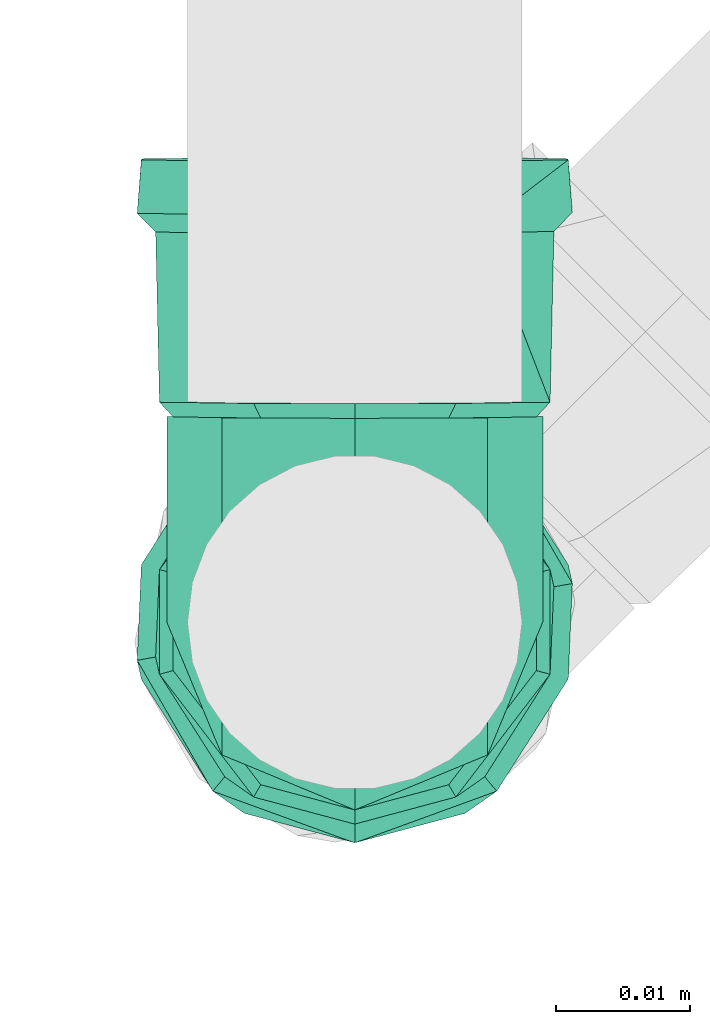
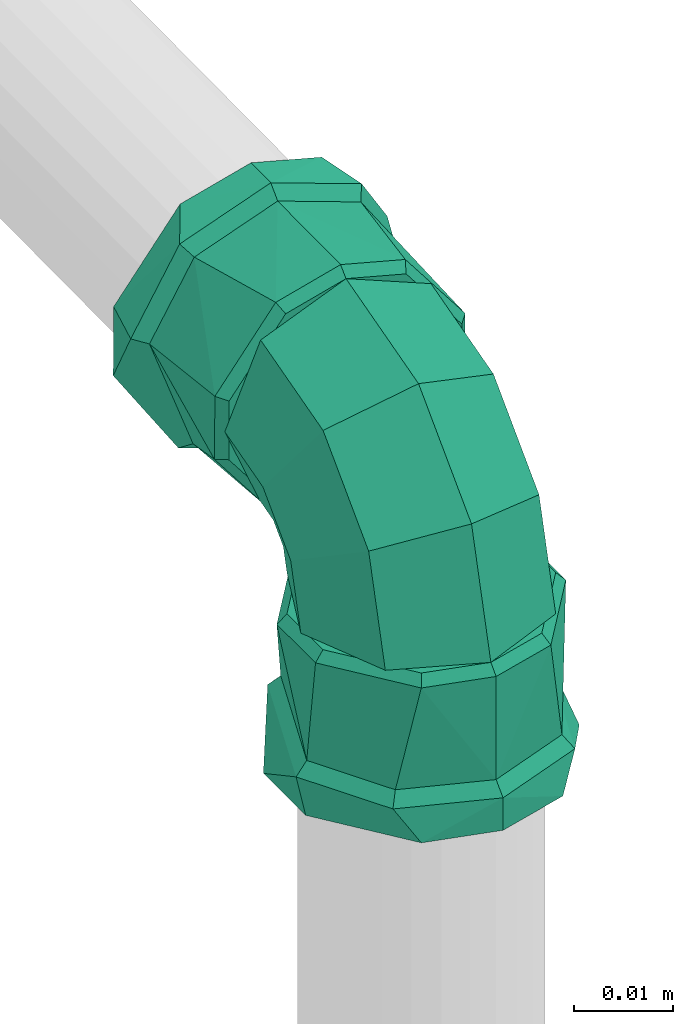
# One storey, part 357 of 589: 1 flow fitting.
"""IFC2X3 building model written with IfcOpenShell, lengths in millimetres."""

from ifc_helpers import new_model, entity, si_unit, converted_unit, derived_unit, direction, frame, origin, place, context, subcontext, project, spatial, faceted_brep, source, transform, mapped, material, type_object, type_shapes, element, save


model = new_model("IFC2X3")

# Units and contexts
model_context = context("Model", 3, precision=0.01, world=origin(), true_north=direction((6.123031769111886e-17, 1.0)))
body_context = subcontext(model_context, "Body", "Model", "MODEL_VIEW")
ifc_project = project(units=[si_unit("LENGTHUNIT", "METRE", prefix="MILLI"), si_unit("AREAUNIT", "SQUARE_METRE"), si_unit("VOLUMEUNIT", "CUBIC_METRE"), converted_unit("PLANEANGLEUNIT", "DEGREE", entity("IfcRatioMeasure", 0.017453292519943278), si_unit("PLANEANGLEUNIT", "RADIAN"), dimensions=[0, 0, 0, 0, 0, 0, 0]), si_unit("MASSUNIT", "GRAM", prefix="KILO"), derived_unit("MASSDENSITYUNIT", [(si_unit("MASSUNIT", "GRAM", prefix="KILO"), 1), (si_unit("LENGTHUNIT", "METRE"), -3)]), derived_unit("IONCONCENTRATIONUNIT", [(si_unit("MASSUNIT", "GRAM", prefix="KILO"), 1), (si_unit("LENGTHUNIT", "METRE"), -3)]), derived_unit("MOMENTOFINERTIAUNIT", [(si_unit("LENGTHUNIT", "METRE"), 4)]), si_unit("TIMEUNIT", "SECOND"), si_unit("FREQUENCYUNIT", "HERTZ"), si_unit("THERMODYNAMICTEMPERATUREUNIT", "DEGREE_CELSIUS"), derived_unit("THERMALTRANSMITTANCEUNIT", [(si_unit("MASSUNIT", "GRAM", prefix="KILO"), 1), (si_unit("THERMODYNAMICTEMPERATUREUNIT", "KELVIN"), -1), (si_unit("TIMEUNIT", "SECOND"), -3)]), derived_unit("THERMALCONDUCTANCEUNIT", [(si_unit("MASSUNIT", "GRAM", prefix="KILO"), 1), (si_unit("THERMODYNAMICTEMPERATUREUNIT", "KELVIN"), -1), (si_unit("TIMEUNIT", "SECOND"), -3), (si_unit("LENGTHUNIT", "METRE"), 1)]), derived_unit("VOLUMETRICFLOWRATEUNIT", [(si_unit("LENGTHUNIT", "METRE"), 3), (si_unit("TIMEUNIT", "SECOND"), -1)]), derived_unit("MASSFLOWRATEUNIT", [(si_unit("MASSUNIT", "GRAM", prefix="KILO"), 1), (si_unit("TIMEUNIT", "SECOND"), -1)]), derived_unit("ROTATIONALFREQUENCYUNIT", [(si_unit("TIMEUNIT", "SECOND"), -1)]), si_unit("ELECTRICCURRENTUNIT", "AMPERE"), si_unit("ELECTRICVOLTAGEUNIT", "VOLT"), si_unit("POWERUNIT", "WATT"), si_unit("FORCEUNIT", "NEWTON", prefix="KILO"), si_unit("ILLUMINANCEUNIT", "LUX"), si_unit("LUMINOUSFLUXUNIT", "LUMEN"), si_unit("LUMINOUSINTENSITYUNIT", "CANDELA"), derived_unit("USERDEFINED", [(si_unit("MASSUNIT", "GRAM", prefix="KILO"), -1), (si_unit("LENGTHUNIT", "METRE"), -2), (si_unit("TIMEUNIT", "SECOND"), 3), (si_unit("LUMINOUSFLUXUNIT", "LUMEN"), 1)]), derived_unit("USERDEFINED", [(si_unit("MASSUNIT", "GRAM", prefix="KILO"), 1), (si_unit("TIMEUNIT", "SECOND"), -3), (si_unit("LENGTHUNIT", "METRE"), 3), (si_unit("ELECTRICCURRENTUNIT", "AMPERE"), -2)]), derived_unit("SOUNDPOWERUNIT", [(si_unit("MASSUNIT", "GRAM", prefix="KILO"), 1), (si_unit("TIMEUNIT", "SECOND"), -3), (si_unit("LENGTHUNIT", "METRE"), 2)]), derived_unit("SOUNDPRESSUREUNIT", [(si_unit("MASSUNIT", "GRAM", prefix="KILO"), 1), (si_unit("LENGTHUNIT", "METRE"), -1), (si_unit("TIMEUNIT", "SECOND"), -2)]), derived_unit("LINEARVELOCITYUNIT", [(si_unit("LENGTHUNIT", "METRE"), 1), (si_unit("TIMEUNIT", "SECOND"), -1)]), si_unit("PRESSUREUNIT", "PASCAL"), derived_unit("USERDEFINED", [(si_unit("MASSUNIT", "GRAM", prefix="KILO"), 1), (si_unit("LENGTHUNIT", "METRE"), -2), (si_unit("TIMEUNIT", "SECOND"), -2)]), derived_unit("LINEARFORCEUNIT", [(si_unit("MASSUNIT", "GRAM", prefix="KILO"), 1), (si_unit("TIMEUNIT", "SECOND"), -2)]), derived_unit("PLANARFORCEUNIT", [(si_unit("MASSUNIT", "GRAM", prefix="KILO"), 1), (si_unit("LENGTHUNIT", "METRE"), -1), (si_unit("TIMEUNIT", "SECOND"), -2)]), derived_unit("SPECIFICHEATCAPACITYUNIT", [(si_unit("THERMODYNAMICTEMPERATUREUNIT", "KELVIN"), -1), (si_unit("LENGTHUNIT", "METRE"), 2), (si_unit("TIMEUNIT", "SECOND"), -2)]), derived_unit("HEATINGVALUEUNIT", [(si_unit("LENGTHUNIT", "METRE"), 2), (si_unit("TIMEUNIT", "SECOND"), -2)]), derived_unit("VAPORPERMEABILITYUNIT", [(si_unit("LENGTHUNIT", "METRE"), -1), (si_unit("TIMEUNIT", "SECOND"), 1)]), derived_unit("DYNAMICVISCOSITYUNIT", [(si_unit("MASSUNIT", "GRAM", prefix="KILO"), 1), (si_unit("TIMEUNIT", "SECOND"), -1), (si_unit("LENGTHUNIT", "METRE"), -1)]), derived_unit("THERMALEXPANSIONCOEFFICIENTUNIT", [(si_unit("THERMODYNAMICTEMPERATUREUNIT", "KELVIN"), -1)]), derived_unit("MODULUSOFELASTICITYUNIT", [(si_unit("MASSUNIT", "GRAM", prefix="KILO"), 1), (si_unit("LENGTHUNIT", "METRE"), -1), (si_unit("TIMEUNIT", "SECOND"), -2)]), derived_unit("ISOTHERMALMOISTURECAPACITYUNIT", [(si_unit("LENGTHUNIT", "METRE"), 3), (si_unit("MASSUNIT", "GRAM", prefix="KILO"), -1)]), derived_unit("MOISTUREDIFFUSIVITYUNIT", [(si_unit("TIMEUNIT", "SECOND"), -1), (si_unit("LENGTHUNIT", "METRE"), 2)])], contexts=[model_context])

# Site, building, storey
site_placement = place(None, origin())
site = spatial("IfcSite", under=ifc_project, at=site_placement, Name="Default", CompositionType="ELEMENT")
building_placement = place(site_placement, origin())
building = spatial("IfcBuilding", under=site, at=building_placement, CompositionType="ELEMENT")
storey_placement = place(building_placement, frame((0.0, 0.0, 100.0)))
storey = spatial("IfcBuildingStorey", under=building, at=storey_placement, Name="TÉRREO", CompositionType="ELEMENT", Elevation=100.0)

# Flow fitting
ifc_material = material(Name="PVC Marrom")
pipe_fitting_type = type_object("IfcPipeFittingType", Name="PVC Marrom Soldável_Joelho 45°_90°_Rodrigo MEP:Joelho", PredefinedType="NOTDEFINED", material=ifc_material)
shared_shape = source(origin(), body_context, "Body", "Brep", [
    faceted_brep([(4.072421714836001, 16.405873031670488, 14.585479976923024), (13.240779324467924, 16.314189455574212, 7.549999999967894), (15.263694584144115, 16.29396030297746, 0.0), (13.240779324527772, 16.314189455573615, -7.55000000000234), (4.07242171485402, 16.405873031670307, -14.585479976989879), (-3.7435226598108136, 16.48403247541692, -14.585479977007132), (-12.91188026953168, 16.575716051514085, -7.550000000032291), (-14.934795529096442, 16.595945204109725, 0.0), (-12.911880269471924, 16.57571605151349, 7.549999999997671), (-3.7435226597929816, 16.48403247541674, 14.585479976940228), (-3.4801876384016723, 15.38134412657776, 13.561598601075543), (-12.004938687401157, 15.466591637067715, 7.0199999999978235), (-13.885847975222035, 15.485400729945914, 0.0), (-12.004938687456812, 15.466591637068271, -7.020000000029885), (-3.480187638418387, 15.381344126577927, -13.561598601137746), (3.7870877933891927, 15.308671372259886, -13.561598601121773), (12.311838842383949, 15.223423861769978, -7.02000000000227), (14.192748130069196, 15.204614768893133, 0.0), (12.31183884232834, 15.223423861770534, 7.019999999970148), (3.7870877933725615, 15.308671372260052, 13.561598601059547)], [[[0, 1, 2, 3, 4, 5, 6, 7, 8, 9]], [[10, 11, 12, 13, 14, 15, 16, 17, 18, 19]], [[3, 2, 17, 16]], [[4, 3, 16, 15]], [[15, 14, 5, 4]], [[6, 5, 14, 13]], [[7, 6, 13, 12]], [[8, 7, 12, 11]], [[9, 8, 11, 10]], [[10, 19, 0, 9]], [[1, 0, 19, 18]], [[2, 1, 18, 17]]]),
    faceted_brep([(-16.445774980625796, 3.908167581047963, 14.585479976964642), (-16.445774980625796, 13.076983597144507, 7.549999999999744), (-16.445774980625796, 15.100000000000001, 0.0), (-16.445774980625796, 13.076983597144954, -7.54999999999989), (-16.445774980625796, 3.9081675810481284, -14.58547997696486), (-16.445774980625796, -3.9081675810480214, -14.585479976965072), (-16.445774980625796, -13.0769835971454, -7.550000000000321), (-16.445774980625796, -15.099999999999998, 0.0), (-16.445774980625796, -13.076983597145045, 7.550000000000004), (-16.445774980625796, -3.908167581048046, 14.585479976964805), (-15.345774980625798, 12.158996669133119, 7.019999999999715), (-15.345774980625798, 3.6338193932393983, 13.561598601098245), (-15.345774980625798, -3.633819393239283, 13.56159860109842), (-15.345774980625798, -12.15899666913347, 7.020000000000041), (-15.345774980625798, -14.040000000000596, 0.0), (-15.345774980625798, -12.158996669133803, -7.020000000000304), (-15.345774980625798, -3.63381939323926, -13.561598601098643), (-15.345774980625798, 3.6338193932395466, -13.56159860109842), (-15.345774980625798, 12.158996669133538, -7.019999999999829), (-15.345774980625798, 14.03999999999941, 0.0)], [[[0, 1, 2, 3, 4, 5, 6, 7, 8, 9]], [[10, 11, 12, 13, 14, 15, 16, 17, 18, 19]], [[3, 2, 19, 18]], [[4, 3, 18, 17]], [[17, 16, 5, 4]], [[6, 5, 16, 15]], [[7, 6, 15, 14]], [[8, 7, 14, 13]], [[9, 8, 13, 12]], [[12, 11, 0, 9]], [[1, 0, 11, 10]], [[2, 1, 10, 19]]]),
    faceted_brep([(-34.545774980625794, -4.2705142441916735, -15.937776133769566), (-34.545774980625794, -6.250000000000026, -10.825317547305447), (-34.545774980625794, 0.0, -12.5), (-34.545774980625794, -14.289419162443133, -8.25000000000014), (-34.545774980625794, 4.270514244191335, -15.937776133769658), (-34.545774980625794, -12.074072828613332, -3.23523806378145), (-34.545774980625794, -16.499999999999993, 0.0), (-34.545774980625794, -12.074072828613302, 3.2352380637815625), (-34.545774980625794, -14.289419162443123, 8.249999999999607), (-34.545774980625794, -6.249999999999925, 10.825317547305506), (-34.545774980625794, -4.27051424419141, 15.937776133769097), (-34.545774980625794, 0.0, 12.5), (-34.545774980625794, 4.270514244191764, 15.937776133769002), (-34.545774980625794, 6.249999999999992, 10.825317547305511), (-34.545774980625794, 14.28941916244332, 8.249999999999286), (-34.545774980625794, 12.074072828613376, 3.2352380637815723), (-34.545774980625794, 16.500000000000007, 0.0), (-34.545774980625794, 12.074072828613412, -3.235238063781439), (-34.545774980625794, 14.289419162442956, -8.250000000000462), (-34.545774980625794, 6.250000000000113, -10.82531754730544), (-30.545774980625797, 16.5, 0.0), (-30.545774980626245, 12.639142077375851, 10.606700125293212), (-30.545774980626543, 2.8633833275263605, 16.249647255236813), (-30.545774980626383, -12.64180232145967, 10.603529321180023), (-30.545774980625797, -16.499999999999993, 0.0), (-30.545774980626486, -4.889209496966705, 13.426588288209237), (-30.545774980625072, -12.641802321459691, -10.603529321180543), (-30.54577498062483, -2.8674593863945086, -16.24892847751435), (-30.545774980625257, 12.639142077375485, -10.606700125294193), (-30.545774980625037, 4.885841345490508, -13.427814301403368), (-29.145774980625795, -15.099999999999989, 0.0), (-29.145774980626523, -11.56916454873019, 9.703835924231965), (-29.14577498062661, -4.474367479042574, 12.287362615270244), (-29.145774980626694, 2.6204295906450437, 14.870889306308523), (-29.14577498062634, 11.566730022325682, 9.706737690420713), (-29.145774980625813, 15.099999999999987, 0.0), (-29.14577498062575, 11.566730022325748, -9.706737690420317), (-29.145774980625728, 4.4712851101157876, -12.28848460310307), (-29.145774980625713, -2.6241598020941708, -14.870231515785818), (-29.145774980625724, -11.569164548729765, -9.703835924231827), (-16.445774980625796, 0.0, -12.5), (-16.445774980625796, -6.250000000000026, -10.825317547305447), (-16.445774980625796, -3.908167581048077, -14.585479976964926), (-16.445774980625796, 3.9081675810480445, -14.585479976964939), (-16.445774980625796, 6.250000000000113, -10.82531754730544), (-16.445774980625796, -13.076983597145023, -7.549999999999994), (-16.445774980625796, -12.074072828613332, -3.23523806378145), (-16.445774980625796, -15.099999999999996, 0.0), (-16.445774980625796, -12.074072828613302, 3.2352380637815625), (-16.445774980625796, -13.076983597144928, 7.550000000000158), (-16.445774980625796, -6.249999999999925, 10.825317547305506), (-16.445774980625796, -3.9081675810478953, 14.585479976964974), (-16.445774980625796, 0.0, 12.5), (-16.445774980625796, 3.9081675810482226, 14.58547997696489), (-16.445774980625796, 6.249999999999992, 10.825317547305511), (-16.445774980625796, 13.076983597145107, 7.549999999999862), (-16.445774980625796, 12.074072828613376, 3.2352380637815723), (-16.445774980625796, 15.100000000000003, 0.0), (-16.445774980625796, 12.074072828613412, -3.235238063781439), (-16.445774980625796, 13.076983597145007, -7.550000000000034)], [[[0, 1, 2]], [[1, 0, 3]], [[2, 4, 0]], [[3, 5, 1]], [[3, 6, 5]], [[5, 6, 7]], [[8, 7, 6]], [[7, 8, 9]], [[10, 9, 8]], [[9, 10, 11]], [[11, 10, 12]], [[12, 13, 11]], [[14, 13, 12]], [[13, 14, 15]], [[16, 15, 14]], [[16, 17, 15]], [[18, 17, 16]], [[19, 17, 18]], [[19, 18, 4]], [[4, 2, 19]], [[16, 14, 20]], [[14, 21, 20]], [[21, 14, 12]], [[21, 12, 22]], [[23, 10, 8]], [[24, 8, 6]], [[10, 23, 25, 22]], [[23, 8, 24]], [[10, 22, 12]], [[6, 3, 24]], [[3, 26, 24]], [[26, 3, 0]], [[26, 0, 27]], [[28, 4, 18]], [[20, 18, 16]], [[4, 28, 29, 27]], [[28, 18, 20]], [[4, 27, 0]], [[30, 31, 23, 24]], [[31, 32, 33, 22, 25, 23]], [[34, 35, 20, 21]], [[34, 21, 22, 33]], [[35, 36, 28, 20]], [[36, 37, 38, 27, 29, 28]], [[39, 30, 24, 26]], [[39, 26, 27, 38]], [[40, 41, 42]], [[42, 43, 40]], [[44, 40, 43]], [[45, 42, 41]], [[41, 46, 45]], [[46, 47, 45]], [[48, 47, 46]], [[47, 48, 49]], [[50, 49, 48]], [[49, 50, 51]], [[52, 51, 50]], [[53, 51, 52]], [[52, 54, 53]], [[53, 54, 55]], [[56, 55, 54]], [[55, 56, 57]], [[56, 58, 57]], [[59, 58, 44]], [[57, 58, 59]], [[43, 59, 44]], [[35, 34, 55]], [[35, 55, 57]], [[55, 34, 53]], [[34, 33, 53]], [[51, 33, 32, 31]], [[49, 31, 30]], [[31, 49, 51]], [[49, 30, 47]], [[33, 51, 53]], [[30, 39, 45]], [[30, 45, 47]], [[45, 39, 42]], [[39, 38, 42]], [[43, 38, 37, 36]], [[59, 36, 35]], [[36, 59, 43]], [[59, 35, 57]], [[38, 43, 42]], [[9, 11, 52, 50]], [[7, 9, 50, 48]], [[48, 46, 5, 7]], [[1, 5, 46, 41]], [[2, 1, 41, 40]], [[19, 2, 40, 44]], [[17, 19, 44, 58]], [[58, 56, 15, 17]], [[13, 15, 56, 54]], [[11, 13, 54, 52]]]),
    faceted_brep([(-0.6611286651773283, -10.131479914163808, 0.0), (-2.705357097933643, -6.563358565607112, 9.92777920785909), (-15.345774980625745, -9.927779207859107, 9.92777920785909), (-15.345774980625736, -14.039999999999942, 0.0), (-7.640561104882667, 2.050848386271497, 14.04), (-15.345774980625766, 0.0, 14.04), (-12.575765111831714, 10.665055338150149, 9.927779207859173), (-15.345774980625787, 9.927779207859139, 9.927779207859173), (-14.619993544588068, 14.233176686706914, 0.0), (-15.345774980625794, 14.040000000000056, 0.0), (-12.575765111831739, 10.665055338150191, -9.92777920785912), (-15.345774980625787, 9.927779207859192, -9.92777920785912), (-7.640561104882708, 2.0508483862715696, -14.04), (-15.345774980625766, 0.0, -14.04), (-2.7053570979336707, -6.563358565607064, -9.927779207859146), (-15.345774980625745, -9.927779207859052, -9.927779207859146), (10.13758433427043, 0.5597858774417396, 0.0), (6.5900826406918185, 2.639591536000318, 9.92777920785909), (-1.9743440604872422, 7.660686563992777, 14.04), (-10.538770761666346, 12.68178159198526, 9.927779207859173), (-14.086272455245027, 14.761587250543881, 0.0), (-10.538770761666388, 12.681781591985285, -9.92777920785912), (-1.974344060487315, 7.66068656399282, -14.04), (6.590082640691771, 2.639591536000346, -9.927779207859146), (14.19274813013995, 15.204614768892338, 0.0), (10.080732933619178, 15.245734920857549, 9.92777920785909), (0.1534500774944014, 15.34500774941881, 14.04), (-9.773832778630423, 15.444280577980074, 9.927779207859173), (-13.885847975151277, 15.485400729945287, 0.0), (-9.773832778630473, 15.444280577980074, -9.92777920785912), (0.1534500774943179, 15.345007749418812, -14.04), (10.080732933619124, 15.245734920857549, -9.927779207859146)], [[[0, 1, 2, 3]], [[1, 4, 5, 2]], [[4, 6, 7, 5]], [[6, 8, 9, 7]], [[8, 10, 11, 9]], [[10, 12, 13, 11]], [[12, 14, 15, 13]], [[14, 0, 3, 15]], [[16, 17, 1, 0]], [[17, 18, 4, 1]], [[18, 19, 6, 4]], [[19, 20, 8, 6]], [[20, 21, 10, 8]], [[21, 22, 12, 10]], [[22, 23, 14, 12]], [[23, 16, 0, 14]], [[24, 25, 17, 16]], [[25, 26, 18, 17]], [[26, 27, 19, 18]], [[27, 28, 20, 19]], [[28, 29, 21, 20]], [[29, 30, 22, 21]], [[30, 31, 23, 22]], [[31, 24, 16, 23]], [[3, 2, 5, 7, 9, 11, 13, 15]], [[31, 30, 29, 28, 27, 26, 25, 24]]]),
    faceted_brep([(0.16444952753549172, 16.444952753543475, -12.5), (-6.085237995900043, 16.507449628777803, -10.825317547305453), (-3.743522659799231, 16.484032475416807, -14.585479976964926), (4.072421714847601, 16.40587303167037, -14.585479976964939), (6.414137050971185, 16.38245587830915, -10.82531754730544), (-12.911880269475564, 16.575716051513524, -7.5499999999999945), (-11.90901964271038, 16.565687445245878, -3.235238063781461), (-14.934795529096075, 16.595945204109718, 0.0), (-11.90901964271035, 16.565687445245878, 3.2352380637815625), (-12.911880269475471, 16.575716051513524, 7.550000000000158), (-6.08523799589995, 16.507449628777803, 10.825317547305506), (-3.7435226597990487, 16.484032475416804, 14.585479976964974), (0.164449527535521, 16.444952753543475, 12.5), (4.0724217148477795, 16.40587303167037, 14.58547997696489), (6.414137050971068, 16.38245587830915, 10.825317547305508), (13.240779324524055, 16.31418945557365, 7.549999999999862), (12.23791869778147, 16.324218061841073, 3.2352380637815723), (15.263694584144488, 16.293960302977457, 0.0), (12.23791869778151, 16.324218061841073, -3.235238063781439), (13.240779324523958, 16.31418945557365, -7.550000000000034), (15.39068823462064, 28.99332535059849, 0.0), (11.85759490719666, 29.02865628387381, 9.706737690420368), (4.762504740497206, 29.09960718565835, 12.288484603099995), (-2.3325854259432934, 29.170558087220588, 14.870231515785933), (-11.27714295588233, 29.260003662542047, 9.703835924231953), (-14.807801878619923, 29.29531025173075, 0.0), (-11.27714295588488, 29.26000366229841, -9.703835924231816), (-4.182700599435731, 29.189059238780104, -12.287362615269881), (2.9117417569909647, 29.118114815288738, -14.870889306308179), (11.857594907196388, 29.028656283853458, -9.706737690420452), (-12.333067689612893, 30.670632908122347, 10.606700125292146), (-16.193732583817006, 30.70923955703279, 0.0), (-2.5577976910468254, 30.572880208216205, 16.24964725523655), (12.946612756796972, 30.41783610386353, 10.603529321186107), (5.194407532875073, 30.495358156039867, 13.42658828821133), (16.804617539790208, 30.379256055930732, 0.0), (12.946612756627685, 30.41783610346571, -10.603529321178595), (3.1727585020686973, 30.51557464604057, -16.24892847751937), (-12.333067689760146, 30.670632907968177, -10.606700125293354), (-4.580154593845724, 30.59310377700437, -13.427814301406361), (-3.9248602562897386, 34.58675082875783, -15.937776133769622), (-5.904247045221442, 34.606544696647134, -10.825317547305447), (0.34544047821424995, 34.54404782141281, -12.5), (-13.94326426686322, 34.68693486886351, -8.24999999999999), (4.61574121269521, 34.50134481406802, -15.937776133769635), (-11.72802869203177, 34.664782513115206, -3.23523806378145), (-16.153734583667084, 34.709039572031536, 0.0), (-11.72802869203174, 34.664782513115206, 3.2352380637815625), (-13.943264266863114, 34.68693486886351, 8.250000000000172), (-5.904247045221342, 34.606544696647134, 10.825317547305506), (-3.92486025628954, 34.58675082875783, 15.937776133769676), (0.34544047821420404, 34.54404782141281, 12.5), (4.615741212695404, 34.50134481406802, 15.937776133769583), (6.5951280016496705, 34.48155094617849, 10.825317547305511), (14.63414522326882, 34.40116077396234, 8.24999999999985), (12.418909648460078, 34.423313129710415, 3.2352380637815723), (16.844615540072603, 34.37905607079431, 0.0), (12.418909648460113, 34.423313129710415, -3.235238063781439), (14.634145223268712, 34.40116077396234, -8.250000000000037), (6.595128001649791, 34.48155094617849, -10.82531754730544)], [[[0, 1, 2]], [[2, 3, 0]], [[4, 0, 3]], [[5, 2, 1]], [[1, 6, 5]], [[6, 7, 5]], [[8, 7, 6]], [[7, 8, 9]], [[10, 9, 8]], [[9, 10, 11]], [[12, 11, 10]], [[13, 11, 12]], [[12, 14, 13]], [[13, 14, 15]], [[16, 15, 14]], [[15, 16, 17]], [[16, 18, 17]], [[19, 18, 4]], [[17, 18, 19]], [[3, 19, 4]], [[20, 21, 15]], [[20, 15, 17]], [[15, 21, 13]], [[13, 21, 22, 23]], [[11, 23, 24]], [[9, 24, 25]], [[24, 9, 11]], [[9, 25, 7]], [[23, 11, 13]], [[25, 26, 5]], [[25, 5, 7]], [[5, 26, 2]], [[2, 26, 27, 28]], [[3, 28, 29]], [[19, 29, 20]], [[29, 19, 3]], [[19, 20, 17]], [[28, 3, 2]], [[24, 23, 30]], [[25, 24, 31]], [[31, 24, 30]], [[23, 32, 30]], [[21, 20, 33]], [[21, 33, 34]], [[22, 32, 23]], [[35, 33, 20]], [[32, 22, 34]], [[22, 21, 34]], [[20, 29, 36]], [[36, 35, 20]], [[37, 36, 29]], [[38, 39, 27]], [[29, 28, 37]], [[26, 25, 31]], [[38, 27, 26]], [[38, 26, 31]], [[28, 39, 37]], [[39, 28, 27]], [[40, 41, 42]], [[41, 40, 43]], [[42, 44, 40]], [[43, 45, 41]], [[43, 46, 45]], [[45, 46, 47]], [[48, 47, 46]], [[47, 48, 49]], [[50, 49, 48]], [[49, 50, 51]], [[51, 50, 52]], [[52, 53, 51]], [[54, 53, 52]], [[53, 54, 55]], [[56, 55, 54]], [[56, 57, 55]], [[58, 57, 56]], [[59, 57, 58]], [[59, 58, 44]], [[44, 42, 59]], [[56, 54, 35]], [[54, 33, 35]], [[33, 54, 52]], [[52, 32, 34, 33]], [[30, 50, 48]], [[31, 48, 46]], [[50, 30, 32]], [[30, 48, 31]], [[50, 32, 52]], [[46, 43, 31]], [[43, 38, 31]], [[38, 43, 40]], [[40, 37, 39, 38]], [[36, 44, 58]], [[35, 58, 56]], [[44, 36, 37]], [[36, 58, 35]], [[44, 37, 40]], [[49, 51, 12, 10]], [[47, 49, 10, 8]], [[8, 6, 45, 47]], [[41, 45, 6, 1]], [[42, 41, 1, 0]], [[59, 42, 0, 4]], [[57, 59, 4, 18]], [[18, 16, 55, 57]], [[53, 55, 16, 14]], [[51, 53, 14, 12]]]),
])
type_shapes(pipe_fitting_type, [shared_shape])
flow_fitting_placement = place(storey_placement, frame((-5713.364418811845, -662.6703496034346, 2576.275518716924), z_axis=(1.0, 0.0, 0.0), x_axis=(0.0, -0.9999500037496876, -0.009999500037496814)))
element("IfcFlowFitting", 1, at=flow_fitting_placement, inside=storey, type_object=pipe_fitting_type, material=ifc_material, Name="PVC Marrom Soldável_Joelho 45°_90°_Rodrigo MEP:Joelho", ObjectType="PVC Marrom Soldável_Joelho 45°_90°_Rodrigo MEP:Joelho", context=body_context, shape_type="MappedRepresentation", body=[
    mapped(shared_shape, transform((0.0, 0.0, 0.0), scale=1.0)),
])

save(model, "model.ifc")
